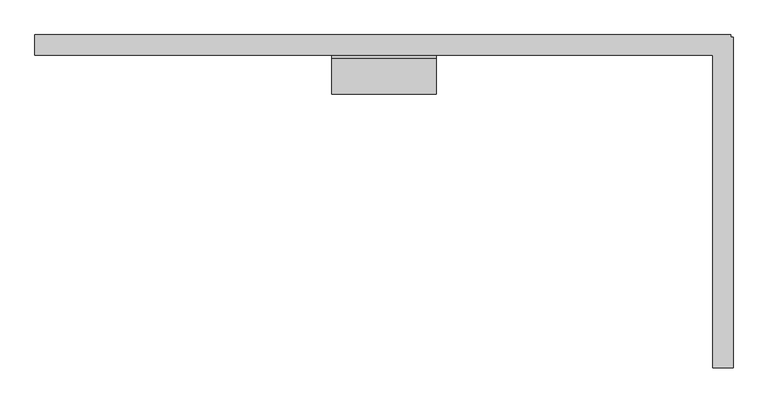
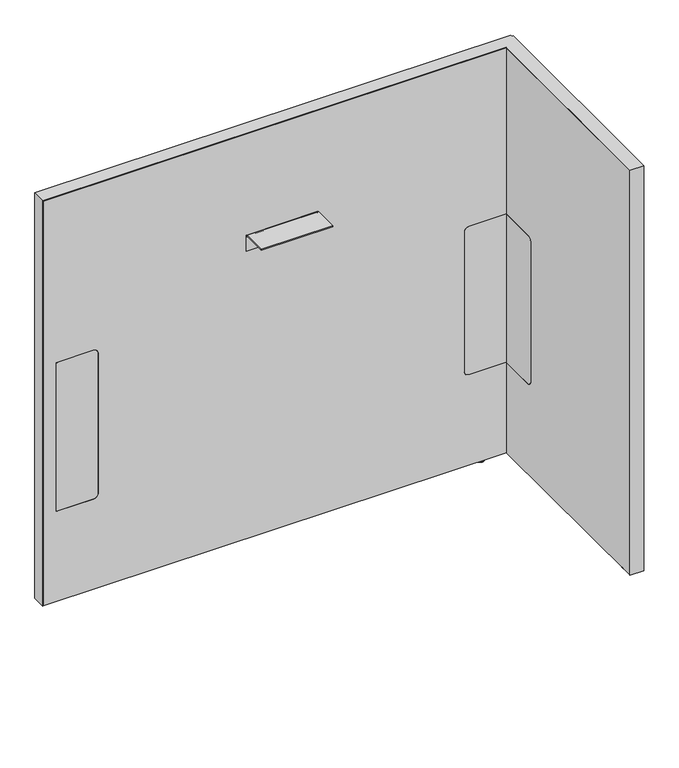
"""IFC4 building model written with IfcOpenShell, lengths in millimetres: furniture geometry, Steelcase - Answer Solution - Boundary Screen - L Return - Single Sided : 36H x 39W."""

from ifc_helpers import new_model, si_unit, point, frame, frame_2d, origin, place, context, project, spatial, polyline, circle_curve, ellipse_curve, trimmed, segment, composite_curve, outline, extrude, faceted_brep, source, transform, mapped, element, save
from ifc_brep_helpers import plane_surface, cylinder_surface, revolved_surface, advanced_brep


def furniture_ed371870(model_context):
    return source(origin(), model_context, "Body", "SolidModel", [
        extrude(outline(composite_curve([segment(polyline([(-109.3501471, 549.6162029), (-29.0550397, 549.6162029), (-29.0550397, 213.7762137), (-109.3501471, 213.7762137)]), True, "CONTINUOUS"), segment(trimmed(circle_curve(frame_2d((-109.3501471, 223.9362137)), 10.16), [point((-109.3501471, 213.7762137))], [point((-119.5101471, 223.9362137))], False, "CARTESIAN"), True, "CONTINUOUS"), segment(polyline([(-119.5101471, 223.9362137), (-119.5101471, 539.4562029)]), True, "CONTINUOUS"), segment(trimmed(circle_curve(frame_2d((-109.3501471, 539.4562029)), 10.16), [point((-119.5101471, 539.4562029))], [point((-109.3501471, 549.6162029))], False, "CARTESIAN"), True, "CONTINUOUS")], self_intersect=False)), frame((1220.4191891, 0.0, 0.0), z_axis=(1.0, 0.0, 0.0), x_axis=(0.0, 1.0, 0.0)), (0.0, 0.0, 1.0), 0.6401544),
        advanced_brep(
        [(1235.2672074, -448.0136072, 0.0), (1242.2216144, -448.0136072, 0.0), (1228.3128003, -448.0136072, 0.0), (1243.6762685, -448.0136072, 1.2700001), (1226.8581463, -448.0136072, 1.2700001), (1243.6762685, -448.0136072, 2.9673238), (1226.8581463, -448.0136072, 2.9673238), (1244.6427877, -448.0136072, 2.9673238), (1225.891627, -448.0136072, 2.9673238), (1244.6427877, -448.0136072, 9.9059849), (1225.891627, -448.0136072, 9.9059849), (1235.2672074, -448.0136072, 9.9059849)],
        [
            (0, 1),
            (1, 2, circle_curve(frame((1235.2672074, -448.0136072, 0.0), z_axis=(0.0, 0.0, -1.0), x_axis=(1.0, 0.0, 0.0)), 6.9544071)),
            (2, 0),
            (2, 1, circle_curve(frame((1235.2672074, -448.0136072, 0.0), z_axis=(0.0, 0.0, -1.0), x_axis=(1.0, 0.0, 0.0)), 6.9544071)),
            (1, 3, circle_curve(frame((1242.3945484, -448.0136072, 1.2700001), z_axis=(0.0, -1.0, 0.0), x_axis=(0.0, 0.0, 1.0)), 1.2817201)),
            (3, 4, circle_curve(frame((1235.2672074, -448.0136072, 1.2700001), z_axis=(0.0, 0.0, -1.0), x_axis=(1.0, 0.0, 0.0)), 8.4090611)),
            (4, 2, circle_curve(frame((1228.1398663, -448.0136072, 1.2700001), z_axis=(0.0, -1.0, 0.0), x_axis=(0.0, 0.0, 1.0)), 1.2817201)),
            (4, 3, circle_curve(frame((1235.2672074, -448.0136072, 1.2700001), z_axis=(0.0, 0.0, -1.0), x_axis=(1.0, 0.0, 0.0)), 8.4090611)),
            (3, 5),
            (5, 6, circle_curve(frame((1235.2672074, -448.0136072, 2.9673238), z_axis=(0.0, 0.0, -1.0), x_axis=(1.0, 0.0, 0.0)), 8.4090611)),
            (6, 4),
            (6, 5, circle_curve(frame((1235.2672074, -448.0136072, 2.9673238), z_axis=(0.0, 0.0, -1.0), x_axis=(1.0, 0.0, 0.0)), 8.4090611)),
            (5, 7),
            (7, 8, circle_curve(frame((1235.2672074, -448.0136072, 2.9673238), z_axis=(0.0, 0.0, -1.0), x_axis=(1.0, 0.0, 0.0)), 9.3755804)),
            (8, 6),
            (8, 7, circle_curve(frame((1235.2672074, -448.0136072, 2.9673238), z_axis=(0.0, 0.0, -1.0), x_axis=(1.0, 0.0, 0.0)), 9.3755804)),
            (7, 9),
            (9, 10, circle_curve(frame((1235.2672074, -448.0136072, 9.9059849), z_axis=(0.0, 0.0, -1.0), x_axis=(1.0, 0.0, 0.0)), 9.3755804)),
            (10, 8),
            (10, 9, circle_curve(frame((1235.2672074, -448.0136072, 9.9059849), z_axis=(0.0, 0.0, -1.0), x_axis=(1.0, 0.0, 0.0)), 9.3755804)),
            (9, 11),
            (11, 10),
        ],
        [
            plane_surface(frame((1235.2672074, -448.0136072, 0.0), z_axis=(0.0, 0.0, -1.0), x_axis=(1.0, 0.0, 0.0))),
            revolved_surface(trimmed(ellipse_curve(frame((1242.3945484, -448.0136072, 1.2700001), z_axis=(0.0, 1.0, 0.0), x_axis=(0.0, 0.0, 1.0)), 1.2817201, 1.2817201), [point((1243.6762685, -448.0136072, 1.2700001))], [point((1242.2216144, -448.0136072, 0.0))], True, "CARTESIAN"), (1235.2672074, -448.0136072, 9.9059849), (0.0, 0.0, -1.0)),
            cylinder_surface(frame((1235.2672074, -448.0136072, 9.9059849), z_axis=(0.0, 0.0, -1.0), x_axis=(1.0, 0.0, 0.0)), 8.4090611),
            plane_surface(frame((1235.2672074, -448.0136072, 2.9673238), z_axis=(0.0, 0.0, -1.0), x_axis=(1.0, 0.0, 0.0))),
            cylinder_surface(frame((1235.2672074, -448.0136072, 9.9059849), z_axis=(0.0, 0.0, -1.0), x_axis=(1.0, 0.0, 0.0)), 9.3755804),
            plane_surface(frame((1235.2672074, -448.0136072, 9.9059849), z_axis=(0.0, 0.0, 1.0), x_axis=(1.0, 0.0, 0.0))),
        ],
        [
            (0, [[1, 2, 3]]),
            (0, [[-3, 4, -1]]),
            (1, [[-2, 5, 6, 7]]),
            (1, [[-4, -7, 8, -5]]),
            (2, [[-6, 9, 10, 11]]),
            (2, [[-8, -11, 12, -9]]),
            (3, [[-10, 13, 14, 15]]),
            (3, [[-12, -15, 16, -13]]),
            (4, [[-14, 17, 18, 19]]),
            (4, [[-16, -19, 20, -17]]),
            (5, [[-18, 21, 22]]),
            (5, [[-20, -22, -21]]),
        ],
    ),
        faceted_brep([(1246.8531179, 0.0, 925.322), (1246.8531179, 0.0, 9.9059849), (1245.8621491, 0.0, 9.9059849), (1245.8621491, 0.0, 924.342118), (230.8097779, 0.0, 924.342118), (230.8097779, 0.0, 9.9059849), (229.8191891, 0.0, 9.9059849), (229.8191891, 0.0, 925.322), (229.8191891, -29.6898332, 925.322), (229.8191891, -29.6898332, 9.9059849), (230.8097779, -29.6898332, 9.9059849), (230.8097779, -29.6898332, 924.342118), (1220.4191891, -29.6898332, 924.342118), (1220.4191891, -29.6898332, 925.322), (1245.8621491, -29.6898332, 924.342118), (1245.8621491, -29.6898332, 9.9059849), (1246.8531179, -29.6898332, 9.9059849), (1246.8531179, -29.6898332, 924.342118), (1246.8531179, -3.2625916, 925.322), (1246.8531179, -3.2625916, 9.9059849), (1246.8531179, -4.252647, 9.9059849), (1246.8531179, -4.252647, 924.342118), (1250.1152256, -3.2625916, 9.9059849), (1250.1152256, -4.252647, 9.9059849), (1245.8621491, -4.252647, 9.9059849), (1220.4191891, -4.252647, 9.9059849), (1220.4191891, -3.2625916, 9.9059849), (1245.8621491, -3.2625916, 9.9059849), (1220.4191891, -486.8898332, 925.322), (1250.1152256, -486.8898332, 925.322), (1250.1152256, -3.2625916, 925.322), (1245.8621491, -3.2625916, 924.342118), (1245.8621491, -4.252647, 924.342118), (1220.4191891, -3.2625916, 924.342118), (1220.4191891, -4.252647, 924.342118), (1250.1152256, -4.252647, 924.342118), (1250.1152256, -485.899196, 924.342118), (1220.4191891, -485.899196, 924.342118), (1220.4191891, -485.899196, 9.9059849), (1220.4191891, -486.8898332, 9.9059849), (1250.1152256, -486.8898332, 9.9059849), (1250.1152256, -485.899196, 9.9059849)], [[[0, 1, 2, 3, 4, 5, 6, 7]], [[8, 9, 10, 11, 12, 13]], [[14, 15, 16, 17]], [[1, 0, 18, 19]], [[17, 16, 20, 21]], [[2, 1, 19, 22, 23, 20, 16, 15, 24, 25, 26, 27]], [[7, 6, 9, 8]], [[0, 7, 8, 13, 28, 29, 30, 18]], [[3, 2, 27, 31]], [[15, 14, 32, 24]], [[4, 3, 31, 33, 34, 32, 14, 17, 21, 35, 36, 37, 12, 11]], [[5, 4, 11, 10]], [[6, 5, 10, 9]], [[26, 25, 34, 33]], [[37, 38, 39, 28, 13, 12]], [[29, 40, 41, 36, 35, 23, 22, 30]], [[27, 26, 33, 31]], [[30, 22, 19, 18]], [[34, 25, 24, 32]], [[23, 35, 21, 20]], [[38, 37, 36, 41]], [[39, 38, 41, 40]], [[28, 39, 40, 29]]]),
        extrude(outline(composite_curve([segment(polyline([(-86.8398151, 696.4680019), (-86.8398151, 698.5), (-34.9450855, 698.5)]), True, "CONTINUOUS"), segment(trimmed(circle_curve(frame_2d((-34.9450855, 693.2447477)), 5.2552523), [point((-34.9450855, 698.5))], [point((-29.6898332, 693.2447477))], False, "CARTESIAN"), True, "CONTINUOUS"), segment(polyline([(-29.6898332, 693.2447477), (-29.6898332, 660.4), (-31.7218162, 660.4), (-31.7218162, 693.0058743)]), True, "CONTINUOUS"), segment(trimmed(circle_curve(frame_2d((-35.1839438, 693.0058743)), 3.4621276), [point((-31.7218162, 693.0058743))], [point((-35.1839438, 696.4680019))], True, "CARTESIAN"), True, "CONTINUOUS"), segment(polyline([(-35.1839438, 696.4680019), (-86.8398151, 696.4680019)]), True, "CONTINUOUS")], self_intersect=False)), frame((663.7685899, 0.0, 0.0), z_axis=(1.0, 0.0, 0.0), x_axis=(0.0, 1.0, 0.0)), (0.0, 0.0, 1.0), 152.4000969),
        advanced_brep(
        [(1172.9246853, -23.7588726, 9.9059849), (1172.9246853, -5.9309607, 9.9059849), (1172.9246853, -14.8449166, 9.9059849), (1172.9246853, -23.7588726, 2.9673238), (1172.9246853, -5.9309607, 2.9673238), (1172.9246853, -22.7915354, 2.9673238), (1172.9246853, -6.8982978, 2.9673238), (1172.9246853, -22.7915354, 1.6569081), (1172.9246853, -6.8982978, 1.6569081), (1172.9246853, -21.1346274, 0.0), (1172.9246853, -8.5552059, 0.0), (1172.9246853, -14.8449166, 0.0)],
        [
            (0, 1, circle_curve(frame((1172.9246853, -14.8449166, 9.9059849), z_axis=(0.0, 0.0, 1.0), x_axis=(0.0, 1.0, 0.0)), 8.913956)),
            (1, 2),
            (2, 0),
            (1, 0, circle_curve(frame((1172.9246853, -14.8449166, 9.9059849), z_axis=(0.0, 0.0, 1.0), x_axis=(0.0, 1.0, 0.0)), 8.913956)),
            (3, 4, circle_curve(frame((1172.9246853, -14.8449166, 2.9673238), z_axis=(0.0, 0.0, 1.0), x_axis=(0.0, 1.0, 0.0)), 8.913956)),
            (4, 1),
            (0, 3),
            (4, 3, circle_curve(frame((1172.9246853, -14.8449166, 2.9673238), z_axis=(0.0, 0.0, 1.0), x_axis=(0.0, 1.0, 0.0)), 8.913956)),
            (5, 6, circle_curve(frame((1172.9246853, -14.8449166, 2.9673238), z_axis=(0.0, 0.0, 1.0), x_axis=(0.0, 1.0, 0.0)), 7.9466188)),
            (6, 4),
            (3, 5),
            (6, 5, circle_curve(frame((1172.9246853, -14.8449166, 2.9673238), z_axis=(0.0, 0.0, 1.0), x_axis=(0.0, 1.0, 0.0)), 7.9466188)),
            (7, 8, circle_curve(frame((1172.9246853, -14.8449166, 1.6569081), z_axis=(0.0, 0.0, 1.0), x_axis=(0.0, 1.0, 0.0)), 7.9466188)),
            (8, 6),
            (5, 7),
            (8, 7, circle_curve(frame((1172.9246853, -14.8449166, 1.6569081), z_axis=(0.0, 0.0, 1.0), x_axis=(0.0, 1.0, 0.0)), 7.9466188)),
            (9, 10, circle_curve(frame((1172.9246853, -14.8449166, 0.0), z_axis=(0.0, 0.0, 1.0), x_axis=(0.0, 1.0, 0.0)), 6.2897107)),
            (10, 8, circle_curve(frame((1172.9246853, -8.5552059, 1.6569081), z_axis=(1.0, 0.0, 0.0), x_axis=(0.0, 1.0, 0.0)), 1.6569081)),
            (7, 9, circle_curve(frame((1172.9246853, -21.1346274, 1.6569081), z_axis=(1.0, 0.0, 0.0), x_axis=(0.0, -1.0, 0.0)), 1.6569081)),
            (10, 9, circle_curve(frame((1172.9246853, -14.8449166, 0.0), z_axis=(0.0, 0.0, 1.0), x_axis=(0.0, 1.0, 0.0)), 6.2897107)),
            (11, 10),
            (9, 11),
        ],
        [
            plane_surface(frame((1172.9246853, -14.8449166, 9.9059849), z_axis=(0.0, 0.0, 1.0), x_axis=(0.0, 1.0, 0.0))),
            cylinder_surface(frame((1172.9246853, -14.8449166, 9.9059849), z_axis=(0.0, 0.0, -1.0), x_axis=(0.0, 1.0, 0.0)), 8.913956),
            plane_surface(frame((1172.9246853, -14.8449166, 2.9673238), z_axis=(0.0, 0.0, -1.0), x_axis=(0.0, 1.0, 0.0))),
            cylinder_surface(frame((1172.9246853, -14.8449166, 9.9059849), z_axis=(0.0, 0.0, -1.0), x_axis=(0.0, 1.0, 0.0)), 7.9466188),
            revolved_surface(trimmed(ellipse_curve(frame((1172.9246853, -8.5552059, 1.6569081), z_axis=(-1.0, 0.0, 0.0), x_axis=(0.0, 1.0, 0.0)), 1.6569081, 1.6569081), [point((1172.9246853, -6.8982978, 1.6569081))], [point((1172.9246853, -8.5552059, 0.0))], True, "CARTESIAN"), (1172.9246853, -14.8449166, 9.9059849), (0.0, 0.0, -1.0)),
            plane_surface(frame((1172.9246853, -14.8449166, 0.0), z_axis=(0.0, 0.0, -1.0), x_axis=(0.0, 1.0, 0.0))),
        ],
        [
            (0, [[1, 2, 3]]),
            (0, [[4, -3, -2]]),
            (1, [[5, 6, -1, 7]]),
            (1, [[8, -7, -4, -6]]),
            (2, [[9, 10, -5, 11]]),
            (2, [[12, -11, -8, -10]]),
            (3, [[13, 14, -9, 15]]),
            (3, [[16, -15, -12, -14]]),
            (4, [[17, 18, -13, 19]]),
            (4, [[20, -19, -16, -18]]),
            (5, [[21, -17, 22]]),
            (5, [[-22, -20, -21]]),
        ],
    ),
        advanced_brep(
        [(230.8097779, 0.0, 924.342118), (1245.8621491, 0.0, 924.342118), (1245.8621491, 0.0, 9.9059849), (230.8097779, 0.0, 9.9059849), (347.9483813, -29.0550397, 539.4562029), (337.7883813, -29.0550397, 549.6162029), (258.1344836, -29.0550397, 549.6162029), (258.1344836, -29.0550397, 213.7762137), (337.7883813, -29.0550397, 213.7762137), (347.9483813, -29.0550397, 223.9362137), (1221.0593435, -29.0550397, 213.7762137), (1221.0593435, -29.0550397, 549.6162029), (1140.5109268, -29.0550397, 549.6162029), (1130.3509268, -29.0550397, 539.4562029), (1130.3509268, -29.0550397, 223.9362137), (1140.5109268, -29.0550397, 213.7762137), (230.8097779, -29.6898332, 924.342118), (230.8097779, -29.6898332, 9.9059849), (1220.4191891, -29.6898332, 9.9059849), (1220.4191891, -29.6898332, 213.7762137), (1140.5109268, -29.6898332, 213.7762137), (1130.3509268, -29.6898332, 223.9362137), (1130.3509268, -29.6898332, 539.4562029), (1140.5109268, -29.6898332, 549.6162029), (1220.4191891, -29.6898332, 549.6162029), (1220.4191891, -29.6898332, 924.342118), (337.7883813, -29.6898332, 549.6162029), (347.9483813, -29.6898332, 539.4562029), (347.9483813, -29.6898332, 223.9362137), (337.7883813, -29.6898332, 213.7762137), (258.1344836, -29.6898332, 213.7762137), (258.1344836, -29.6898332, 549.6162029), (1245.8621491, -4.252647, 9.9059849), (1250.1152256, -4.252647, 9.9059849), (1250.1152256, -485.899196, 9.9059849), (1220.4191891, -485.899196, 9.9059849), (1245.8621491, -4.252647, 924.342118), (1220.4191891, -485.899196, 924.342118), (1250.1152256, -485.899196, 924.342118), (1250.1152256, -4.252647, 924.342118), (1221.0593435, -109.3501471, 549.6162029), (1220.4191891, -109.3501471, 549.6162029), (1221.0593435, -109.3501471, 213.7762137), (1221.0593435, -119.5101471, 223.9362137), (1221.0593435, -119.5101471, 539.4562029), (1220.4191891, -109.3501471, 213.7762137), (1220.4191891, -119.5101471, 539.4562029), (1220.4191891, -119.5101471, 223.9362137)],
        [
            (0, 1),
            (1, 2),
            (2, 3),
            (3, 0),
            (4, 5, circle_curve(frame((337.7883813, -29.0550397, 539.4562029), z_axis=(0.0, -1.0, 0.0), x_axis=(0.0, 0.0, 1.0)), 10.16)),
            (5, 6),
            (6, 7),
            (7, 8),
            (8, 9, circle_curve(frame((337.7883813, -29.0550397, 223.9362137), z_axis=(0.0, -1.0, 0.0), x_axis=(0.0, 0.0, 1.0)), 10.16)),
            (9, 4),
            (10, 11),
            (11, 12),
            (12, 13, circle_curve(frame((1140.5109268, -29.0550397, 539.4562029), z_axis=(0.0, -1.0, 0.0), x_axis=(0.0, 0.0, 1.0)), 10.16)),
            (13, 14),
            (14, 15, circle_curve(frame((1140.5109268, -29.0550397, 223.9362137), z_axis=(0.0, -1.0, 0.0), x_axis=(0.0, 0.0, 1.0)), 10.16)),
            (15, 10),
            (16, 17),
            (17, 18),
            (18, 19),
            (19, 20),
            (20, 21, circle_curve(frame((1140.5109268, -29.6898332, 223.9362137), z_axis=(0.0, 1.0, 0.0), x_axis=(0.0, 0.0, 1.0)), 10.16)),
            (21, 22),
            (22, 23, circle_curve(frame((1140.5109268, -29.6898332, 539.4562029), z_axis=(0.0, 1.0, 0.0), x_axis=(0.0, 0.0, 1.0)), 10.16)),
            (23, 24),
            (24, 25),
            (25, 16),
            (26, 27, circle_curve(frame((337.7883813, -29.6898332, 539.4562029), z_axis=(0.0, 1.0, 0.0), x_axis=(0.0, 0.0, 1.0)), 10.16)),
            (27, 28),
            (28, 29, circle_curve(frame((337.7883813, -29.6898332, 223.9362137), z_axis=(0.0, 1.0, 0.0), x_axis=(0.0, 0.0, 1.0)), 10.16)),
            (29, 30),
            (30, 31),
            (31, 26),
            (16, 0),
            (3, 17),
            (2, 32),
            (32, 33),
            (33, 34),
            (34, 35),
            (35, 18),
            (1, 36),
            (36, 32),
            (25, 37),
            (37, 38),
            (38, 39),
            (39, 36),
            (26, 5),
            (4, 27),
            (9, 28),
            (8, 29),
            (7, 30),
            (6, 31),
            (11, 40),
            (40, 41),
            (41, 24),
            (23, 12),
            (42, 43, circle_curve(frame((1221.0593435, -109.3501471, 223.9362137), z_axis=(-1.0, 0.0, 0.0), x_axis=(0.0, 1.0, 0.0)), 10.16)),
            (43, 44),
            (44, 40, circle_curve(frame((1221.0593435, -109.3501471, 539.4562029), z_axis=(-1.0, 0.0, 0.0), x_axis=(0.0, 1.0, 0.0)), 10.16)),
            (10, 42),
            (15, 20),
            (19, 45),
            (45, 42),
            (14, 21),
            (13, 22),
            (35, 37),
            (41, 46, circle_curve(frame((1220.4191891, -109.3501471, 539.4562029), z_axis=(1.0, 0.0, 0.0), x_axis=(0.0, 1.0, 0.0)), 10.16)),
            (46, 47),
            (47, 45, circle_curve(frame((1220.4191891, -109.3501471, 223.9362137), z_axis=(1.0, 0.0, 0.0), x_axis=(0.0, 1.0, 0.0)), 10.16)),
            (38, 34),
            (33, 39),
            (44, 46),
            (43, 47),
        ],
        [
            plane_surface(frame((347.9483813, 0.0, 549.6162029), z_axis=(0.0, 1.0, 0.0), x_axis=(0.0, 0.0, -1.0))),
            plane_surface(frame((347.9483813, -29.0550397, 549.6162029), z_axis=(0.0, -1.0, 0.0), x_axis=(0.0, 0.0, 1.0))),
            plane_surface(frame((1245.8621491, -29.6898332, 924.342118), z_axis=(0.0, -1.0, 0.0), x_axis=(-1.0, 0.0, 0.0))),
            plane_surface(frame((230.8097779, 0.0, 9.9059849), z_axis=(-1.0, 0.0, 0.0), x_axis=(0.0, -1.0, 0.0))),
            plane_surface(frame((1245.8621491, 0.0, 9.9059849), z_axis=(0.0, 0.0, -1.0), x_axis=(0.0, -1.0, 0.0))),
            plane_surface(frame((1245.8621491, 0.0, 924.342118), z_axis=(1.0, 0.0, 0.0), x_axis=(0.0, -1.0, 0.0))),
            plane_surface(frame((230.8097779, 0.0, 924.342118), z_axis=(0.0, 0.0, 1.0), x_axis=(0.0, -1.0, 0.0))),
            revolved_surface(polyline([(337.7883813, -29.6898332, 549.6162029), (337.7883813, -29.0550397, 549.6162029)]), (337.7883813, -29.6898332, 539.4562029), (0.0, -1.0, 0.0)),
            plane_surface(frame((347.9483813, 0.0, 223.9362137), z_axis=(-1.0, 0.0, 0.0), x_axis=(0.0, -1.0, 0.0))),
            revolved_surface(polyline([(337.7883813, -29.6898332, 234.0962137), (337.7883813, -29.0550397, 234.0962137)]), (337.7883813, -29.6898332, 223.9362137), (0.0, -1.0, 0.0)),
            plane_surface(frame((258.1344836, 0.0, 213.7762137), z_axis=(0.0, 0.0, 1.0), x_axis=(0.0, -1.0, 0.0))),
            plane_surface(frame((258.1344836, 0.0, 549.6162029), z_axis=(1.0, 0.0, 0.0), x_axis=(0.0, -1.0, 0.0))),
            plane_surface(frame((337.7883813, 0.0, 549.6162029), z_axis=(0.0, 0.0, -1.0), x_axis=(0.0, -1.0, 0.0))),
            plane_surface(frame((1221.0593435, 0.0, 549.6162029), z_axis=(0.0, 0.0, -1.0), x_axis=(0.0, -1.0, 0.0))),
            plane_surface(frame((1221.0593435, 0.0, 213.7762137), z_axis=(-1.0, 0.0, 0.0), x_axis=(0.0, -1.0, 0.0))),
            plane_surface(frame((1140.5109268, 0.0, 213.7762137), z_axis=(0.0, 0.0, 1.0), x_axis=(0.0, -1.0, 0.0))),
            revolved_surface(polyline([(1140.5109268, -29.6898332, 234.0962137), (1140.5109268, -29.0550397, 234.0962137)]), (1140.5109268, -29.6898332, 223.9362137), (0.0, -1.0, 0.0)),
            plane_surface(frame((1130.3509268, 0.0, 539.4562029), z_axis=(1.0, 0.0, 0.0), x_axis=(0.0, -1.0, 0.0))),
            revolved_surface(polyline([(1140.5109268, -29.6898332, 549.6162029), (1140.5109268, -29.0550397, 549.6162029)]), (1140.5109268, -29.6898332, 539.4562029), (0.0, -1.0, 0.0)),
            plane_surface(frame((1220.4191891, -485.899196, 924.342118), z_axis=(-1.0, 0.0, 0.0), x_axis=(0.0, 0.0, 1.0))),
            plane_surface(frame((1250.1152256, -485.899196, 924.342118), z_axis=(1.0, 0.0, 0.0), x_axis=(0.0, 0.0, -1.0))),
            plane_surface(frame((1250.1152256, -4.252647, 9.9059849), z_axis=(0.0, 1.0, 0.0), x_axis=(-1.0, 0.0, 0.0))),
            plane_surface(frame((1250.1152256, -485.899196, 924.342118), z_axis=(0.0, -1.0, 0.0), x_axis=(-1.0, 0.0, 0.0))),
            revolved_surface(polyline([(1220.4191891, -99.1901471, 539.4562029), (1221.0593435, -99.1901471, 539.4562029)]), (-340.6902705, -109.3501471, 539.4562029), (-1.0, 0.0, 0.0)),
            plane_surface(frame((1250.1152256, -119.5101471, 223.9362137), z_axis=(0.0, 1.0, 0.0), x_axis=(-1.0, 0.0, 0.0))),
            revolved_surface(polyline([(1220.4191891, -99.1901471, 223.9362137), (1221.0593435, -99.1901471, 223.9362137)]), (-340.6902705, -109.3501471, 223.9362137), (-1.0, 0.0, 0.0)),
        ],
        [
            (0, [[1, 2, 3, 4]]),
            (1, [[5, 6, 7, 8, 9, 10]]),
            (1, [[11, 12, 13, 14, 15, 16]]),
            (2, [[17, 18, 19, 20, 21, 22, 23, 24, 25, 26], [27, 28, 29, 30, 31, 32]]),
            (3, [[-17, 33, -4, 34]]),
            (4, [[-3, 35, 36, 37, 38, 39, -18, -34]]),
            (5, [[-2, 40, 41, -35]]),
            (6, [[-1, -33, -26, 42, 43, 44, 45, -40]]),
            (7, [[-27, 46, -5, 47]]),
            (8, [[-28, -47, -10, 48]]),
            (9, [[-29, -48, -9, 49]]),
            (10, [[-30, -49, -8, 50]]),
            (11, [[-31, -50, -7, 51]]),
            (12, [[-32, -51, -6, -46]]),
            (13, [[52, 53, 54, -24, 55, -12]]),
            (14, [[56, 57, 58, -52, -11, 59]]),
            (15, [[-59, -16, 60, -20, 61, 62]]),
            (16, [[-21, -60, -15, 63]]),
            (17, [[-22, -63, -14, 64]]),
            (18, [[-23, -64, -13, -55]]),
            (19, [[65, -42, -25, -54, 66, 67, 68, -61, -19, -39]]),
            (20, [[69, -37, 70, -44]]),
            (21, [[-70, -36, -41, -45]]),
            (22, [[-65, -38, -69, -43]]),
            (23, [[-66, -53, -58, 71]]),
            (24, [[-67, -71, -57, 72]]),
            (25, [[-68, -72, -56, -62]]),
        ],
    ),
        extrude(outline(composite_curve([segment(polyline([(549.6162029, 337.7883813), (549.6162029, 258.1344836), (213.7762137, 258.1344836), (213.7762137, 337.7883813)]), True, "CONTINUOUS"), segment(trimmed(circle_curve(frame_2d((223.9362137, 337.7883813)), 10.16), [point((213.7762137, 337.7883813))], [point((223.9362137, 347.9483813))], False, "CARTESIAN"), True, "CONTINUOUS"), segment(polyline([(223.9362137, 347.9483813), (539.4562029, 347.9483813)]), True, "CONTINUOUS"), segment(trimmed(circle_curve(frame_2d((539.4562029, 337.7883813)), 10.16), [point((539.4562029, 347.9483813))], [point((549.6162029, 337.7883813))], False, "CARTESIAN"), True, "CONTINUOUS")], self_intersect=False)), frame((0.0, -29.6898332, 0.0), z_axis=(0.0, 1.0, 0.0), x_axis=(0.0, 0.0, 1.0)), (0.0, 0.0, 1.0), 0.6347935),
        extrude(outline(composite_curve([segment(trimmed(circle_curve(frame_2d((539.4562029, 1140.5109268)), 10.16), [point((549.6162029, 1140.5109268))], [point((539.4562029, 1130.3509268))], False, "CARTESIAN"), True, "CONTINUOUS"), segment(polyline([(539.4562029, 1130.3509268), (223.9362137, 1130.3509268)]), True, "CONTINUOUS"), segment(trimmed(circle_curve(frame_2d((223.9362137, 1140.5109268)), 10.16), [point((223.9362137, 1130.3509268))], [point((213.7762137, 1140.5109268))], False, "CARTESIAN"), True, "CONTINUOUS"), segment(polyline([(213.7762137, 1140.5109268), (213.7762137, 1220.4191891), (549.6162029, 1220.4191891), (549.6162029, 1140.5109268)]), True, "CONTINUOUS")], self_intersect=False)), frame((0.0, -29.6898332, 0.0), z_axis=(0.0, 1.0, 0.0), x_axis=(0.0, 0.0, 1.0)), (0.0, 0.0, 1.0), 0.6347935),
    ])


if __name__ == "__main__":
    model = new_model("IFC4")
    model_context = context("Model", 3, world=origin())
    ifc_project = project(units=[si_unit("LENGTHUNIT", "METRE", prefix="MILLI")], contexts=[model_context])
    site = spatial("IfcSite", under=ifc_project)
    building = spatial("IfcBuilding", under=site)
    placement = place(None, origin())
    furniture_shape = furniture_ed371870(model_context)
    element("IfcFurniture", 1, ObjectType="Steelcase - Answer Solution - Boundary Screen - L Return - Single Sided : 36H x 39W", at=placement, inside=building, context=model_context, shape_type="MappedRepresentation", body=[
        mapped(furniture_shape, transform((0.0, 0.0, 0.0), x_axis=(1.0, 0.0, 0.0), y_axis=(0.0, 1.0, 0.0), z_axis=(0.0, 0.0, 1.0))),
    ])
    save(model, "model.ifc")
